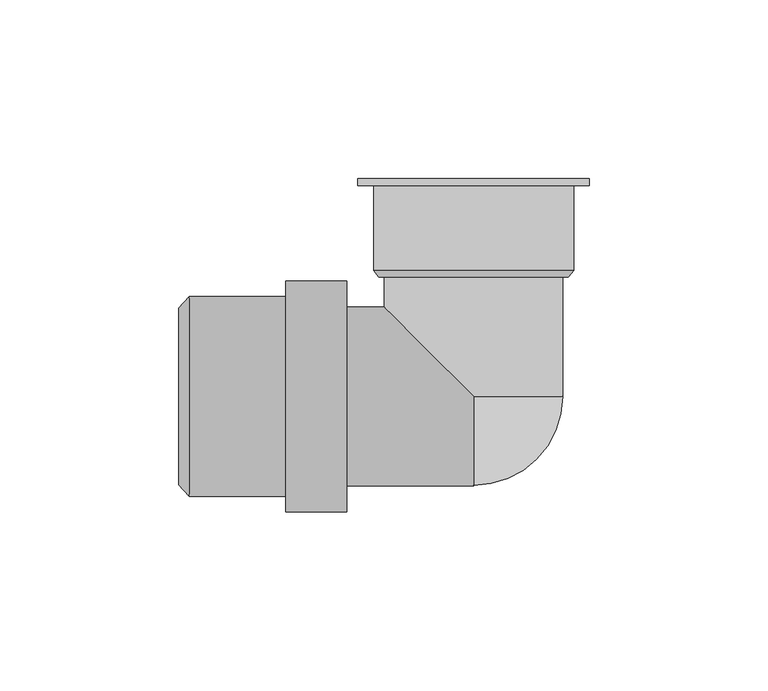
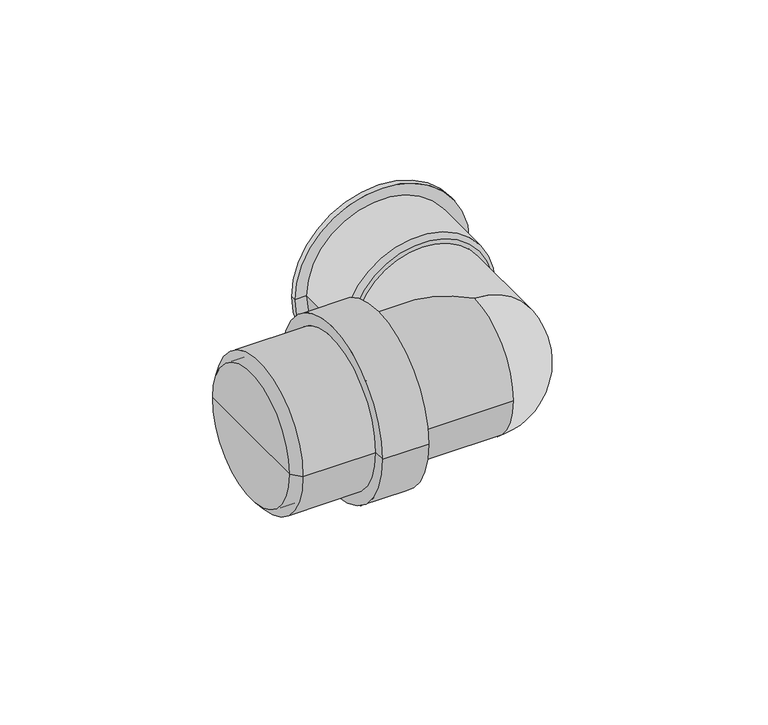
"""IFC4 building model written with IfcOpenShell, lengths in millimetres: pipe fitting geometry, PIF_AS+_Siphon_Bend_Wavin : socket end - Diameters 50-DN30/50-DN40."""

from ifc_helpers import new_model, si_unit, point, frame, origin, place, context, project, spatial, polyline, circle_curve, ellipse_curve, trimmed, source, transform, mapped, element, save
from ifc_brep_helpers import plane_surface, cylinder_surface, revolved_surface, advanced_brep


def pipe_fitting_2378b430(model_context):
    return source(origin(), model_context, "Body", "AdvancedBrep", [
        advanced_brep(
        [(-82.5, -24.75, 0.0), (-82.5, 24.75, 0.0), (-79.5, 28.0, 0.0), (-79.5, -28.0, 0.0), (-82.5, 0.0, 0.0), (-79.5, -24.75, 0.0), (-79.5, 24.75, 0.0), (-79.5, 0.0, 0.0), (-35.5, -24.75, 0.0), (-35.5, 24.75, 0.0), (-35.5, -32.35, 0.0), (-35.5, 32.35, 0.0), (-52.5, -32.35, 0.0), (-52.5, 32.35, 0.0), (-52.5, -28.0, 0.0), (-52.5, 28.0, 0.0)],
        [
            (0, 1, circle_curve(frame((-82.5, 0.0, 0.0), z_axis=(1.0, 0.0, 0.0), x_axis=(0.0, 1.0, 0.0)), 24.75)),
            (1, 2),
            (2, 3, circle_curve(frame((-79.5, 0.0, 0.0), z_axis=(-1.0, 0.0, 0.0), x_axis=(0.0, 1.0, 0.0)), 28.0)),
            (3, 0),
            (1, 0, circle_curve(frame((-82.5, 0.0, 0.0), z_axis=(1.0, 0.0, 0.0), x_axis=(0.0, 1.0, 0.0)), 24.75)),
            (3, 2, circle_curve(frame((-79.5, 0.0, 0.0), z_axis=(-1.0, 0.0, 0.0), x_axis=(0.0, 1.0, 0.0)), 28.0)),
            (4, 1),
            (0, 4),
            (5, 6, circle_curve(frame((-79.5, 0.0, 0.0), z_axis=(1.0, 0.0, 0.0), x_axis=(0.0, 1.0, 0.0)), 24.75)),
            (6, 7),
            (7, 5),
            (6, 5, circle_curve(frame((-79.5, 0.0, 0.0), z_axis=(1.0, 0.0, 0.0), x_axis=(0.0, 1.0, 0.0)), 24.75)),
            (8, 9, circle_curve(frame((-35.5, 0.0, 0.0), z_axis=(1.0, 0.0, 0.0), x_axis=(0.0, 1.0, 0.0)), 24.75)),
            (9, 6),
            (5, 8),
            (9, 8, circle_curve(frame((-35.5, 0.0, 0.0), z_axis=(1.0, 0.0, 0.0), x_axis=(0.0, 1.0, 0.0)), 24.75)),
            (10, 11, circle_curve(frame((-35.5, 0.0, 0.0), z_axis=(1.0, 0.0, 0.0), x_axis=(0.0, 1.0, 0.0)), 32.35)),
            (11, 9),
            (8, 10),
            (11, 10, circle_curve(frame((-35.5, 0.0, 0.0), z_axis=(1.0, 0.0, 0.0), x_axis=(0.0, 1.0, 0.0)), 32.35)),
            (12, 13, circle_curve(frame((-52.5, 0.0, 0.0), z_axis=(1.0, 0.0, 0.0), x_axis=(0.0, 1.0, 0.0)), 32.35)),
            (13, 11),
            (10, 12),
            (13, 12, circle_curve(frame((-52.5, 0.0, 0.0), z_axis=(1.0, 0.0, 0.0), x_axis=(0.0, 1.0, 0.0)), 32.35)),
            (14, 15, circle_curve(frame((-52.5, 0.0, 0.0), z_axis=(1.0, 0.0, 0.0), x_axis=(0.0, 1.0, 0.0)), 28.0)),
            (15, 13),
            (12, 14),
            (15, 14, circle_curve(frame((-52.5, 0.0, 0.0), z_axis=(1.0, 0.0, 0.0), x_axis=(0.0, 1.0, 0.0)), 28.0)),
            (2, 15),
            (14, 3),
        ],
        [
            revolved_surface(polyline([(-79.5, 28.0, 0.0), (-82.5, 24.75, 0.0)]), (1867.6265064, 0.0, 0.0), (-1.0, 0.0, 0.0)),
            plane_surface(frame((-82.5, 0.0, 0.0), z_axis=(-1.0, 0.0, 0.0), x_axis=(0.0, 1.0, 0.0))),
            plane_surface(frame((-79.5, 0.0, 0.0), z_axis=(1.0, 0.0, 0.0), x_axis=(0.0, 1.0, 0.0))),
            revolved_surface(polyline([(-79.5, 24.75, 0.0), (-35.5, 24.75, 0.0)]), (1867.6265064, 0.0, 0.0), (-1.0, 0.0, 0.0)),
            plane_surface(frame((-35.5, 0.0, 0.0), z_axis=(1.0, 0.0, 0.0), x_axis=(0.0, 1.0, 0.0))),
            cylinder_surface(frame((1867.6265064, 0.0, 0.0), z_axis=(-1.0, 0.0, 0.0), x_axis=(0.0, 1.0, 0.0)), 32.35),
            plane_surface(frame((-52.5, 0.0, 0.0), z_axis=(-1.0, 0.0, 0.0), x_axis=(0.0, 1.0, 0.0))),
            cylinder_surface(frame((1867.6265064, 0.0, 0.0), z_axis=(-1.0, 0.0, 0.0), x_axis=(0.0, 1.0, 0.0)), 28.0),
        ],
        [
            (0, [[1, 2, 3, 4]]),
            (0, [[5, -4, 6, -2]]),
            (1, [[7, -1, 8]]),
            (1, [[-8, -5, -7]]),
            (2, [[9, 10, 11]]),
            (2, [[12, -11, -10]]),
            (3, [[13, 14, -9, 15]]),
            (3, [[16, -15, -12, -14]]),
            (4, [[17, 18, -13, 19]]),
            (4, [[20, -19, -16, -18]]),
            (5, [[21, 22, -17, 23]]),
            (5, [[24, -23, -20, -22]]),
            (6, [[25, 26, -21, 27]]),
            (6, [[28, -27, -24, -26]]),
            (7, [[-3, 29, -25, 30]]),
            (7, [[-6, -30, -28, -29]]),
        ],
    ),
        advanced_brep(
        [(26.5, 33.4, 0.0), (-26.5, 33.4, 0.0), (-28.0, 35.2, 0.0), (28.0, 35.2, 0.0), (0.0, 33.4, 0.0), (26.5, 35.2, 0.0), (-26.5, 35.2, 0.0), (0.0, 35.2, 0.0), (26.5, 61.0, 0.0), (-26.5, 61.0, 0.0), (32.35, 61.0, 0.0), (-32.35, 61.0, 0.0), (32.35, 59.0, 0.0), (-32.35, 59.0, 0.0), (28.0, 59.0, 0.0), (-28.0, 59.0, 0.0)],
        [
            (0, 1, circle_curve(frame((0.0, 33.4, 0.0), z_axis=(0.0, 1.0, 0.0), x_axis=(-0.9999999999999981, 0.0, 0.0)), 26.5)),
            (1, 2),
            (2, 3, circle_curve(frame((0.0, 35.2, 0.0), z_axis=(0.0, -1.0, 0.0), x_axis=(-0.9999999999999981, 0.0, 0.0)), 28.0)),
            (3, 0),
            (1, 0, circle_curve(frame((0.0, 33.4, 0.0), z_axis=(0.0, 1.0, 0.0), x_axis=(-0.9999999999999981, 0.0, 0.0)), 26.5)),
            (3, 2, circle_curve(frame((0.0, 35.2, 0.0), z_axis=(0.0, -1.0, 0.0), x_axis=(-0.9999999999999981, 0.0, 0.0)), 28.0)),
            (4, 1),
            (0, 4),
            (5, 6, circle_curve(frame((0.0, 35.2, 0.0), z_axis=(0.0, 1.0, 0.0), x_axis=(-0.9999999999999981, 0.0, 0.0)), 26.5)),
            (6, 7),
            (7, 5),
            (6, 5, circle_curve(frame((0.0, 35.2, 0.0), z_axis=(0.0, 1.0, 0.0), x_axis=(-0.9999999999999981, 0.0, 0.0)), 26.5)),
            (8, 9, circle_curve(frame((0.0, 61.0, 0.0), z_axis=(0.0, 1.0, 0.0), x_axis=(-0.9999999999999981, 0.0, 0.0)), 26.5)),
            (9, 6),
            (5, 8),
            (9, 8, circle_curve(frame((0.0, 61.0, 0.0), z_axis=(0.0, 1.0, 0.0), x_axis=(-0.9999999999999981, 0.0, 0.0)), 26.5)),
            (10, 11, circle_curve(frame((0.0, 61.0, 0.0), z_axis=(0.0, 1.0, 0.0), x_axis=(-0.9999999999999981, 0.0, 0.0)), 32.35)),
            (11, 9),
            (8, 10),
            (11, 10, circle_curve(frame((0.0, 61.0, 0.0), z_axis=(0.0, 1.0, 0.0), x_axis=(-0.9999999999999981, 0.0, 0.0)), 32.35)),
            (12, 13, circle_curve(frame((0.0, 59.0, 0.0), z_axis=(0.0, 1.0, 0.0), x_axis=(-0.9999999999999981, 0.0, 0.0)), 32.35)),
            (13, 11),
            (10, 12),
            (13, 12, circle_curve(frame((0.0, 59.0, 0.0), z_axis=(0.0, 1.0, 0.0), x_axis=(-0.9999999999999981, 0.0, 0.0)), 32.35)),
            (14, 15, circle_curve(frame((0.0, 59.0, 0.0), z_axis=(0.0, 1.0, 0.0), x_axis=(-0.9999999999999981, 0.0, 0.0)), 28.0)),
            (15, 13),
            (12, 14),
            (15, 14, circle_curve(frame((0.0, 59.0, 0.0), z_axis=(0.0, 1.0, 0.0), x_axis=(-0.9999999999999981, 0.0, 0.0)), 28.0)),
            (2, 15),
            (14, 3),
        ],
        [
            revolved_surface(polyline([(-28.0, 35.2, 0.0), (-26.5, 33.4, 0.0)]), (0.0, 1964.1265064, 0.0), (0.0, -0.9999999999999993, 0.0)),
            plane_surface(frame((0.0, 33.4, 0.0), z_axis=(0.0, -1.0, 0.0), x_axis=(-1.0, 0.0, 0.0))),
            plane_surface(frame((0.0, 35.2, 0.0), z_axis=(0.0, 1.0, 0.0), x_axis=(-1.0, 0.0, 0.0))),
            revolved_surface(polyline([(-26.49999999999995, 35.200000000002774, 0.0), (-26.49999999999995, 61.00000000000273, 0.0)]), (0.0, 1964.1265064, 0.0), (0.0, -0.9999999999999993, 0.0)),
            plane_surface(frame((0.0, 61.0, 0.0), z_axis=(0.0, 1.0, 0.0), x_axis=(-1.0, 0.0, 0.0))),
            cylinder_surface(frame((0.0, 1964.1265064, 0.0), z_axis=(0.0, -0.9999999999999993, 0.0), x_axis=(-0.9999999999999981, 0.0, 0.0)), 32.35),
            plane_surface(frame((0.0, 59.0, 0.0), z_axis=(0.0, -1.0, 0.0), x_axis=(-1.0, 0.0, 0.0))),
            cylinder_surface(frame((0.0, 1964.1265064, 0.0), z_axis=(0.0, -0.9999999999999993, 0.0), x_axis=(-0.9999999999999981, 0.0, 0.0)), 28.0),
        ],
        [
            (0, [[1, 2, 3, 4]]),
            (0, [[5, -4, 6, -2]]),
            (1, [[7, -1, 8]]),
            (1, [[-8, -5, -7]]),
            (2, [[9, 10, 11]]),
            (2, [[12, -11, -10]]),
            (3, [[13, 14, -9, 15]]),
            (3, [[16, -15, -12, -14]]),
            (4, [[17, 18, -13, 19]]),
            (4, [[20, -19, -16, -18]]),
            (5, [[21, 22, -17, 23]]),
            (5, [[24, -23, -20, -22]]),
            (6, [[25, 26, -21, 27]]),
            (6, [[28, -27, -24, -26]]),
            (7, [[-3, 29, -25, 30]]),
            (7, [[-6, -30, -28, -29]]),
        ],
    ),
        advanced_brep(
        [(-79.5, -25.0, 0.0), (-79.5, 25.0, 0.0), (0.0, -25.0, 0.0), (0.0, 0.0, 25.0), (-25.0, 25.0, 0.0), (0.0, 0.0, -25.0), (25.0, 35.2, 0.0), (-25.0, 35.2, 0.0), (25.0, 0.0, 0.0)],
        [
            (0, 1, circle_curve(frame((-79.5, 0.0, 0.0), z_axis=(-1.0, 0.0, 0.0), x_axis=(0.0, 1.0, 0.0)), 25.0)),
            (1, 0, circle_curve(frame((-79.5, 0.0, 0.0), z_axis=(-1.0, 0.0, 0.0), x_axis=(0.0, 1.0, 0.0)), 25.0)),
            (0, 2),
            (2, 3, circle_curve(frame((0.0, 0.0, 0.0), z_axis=(-1.0, 0.0, 0.0), x_axis=(0.0, 1.0, 0.0)), 25.0)),
            (3, 4, ellipse_curve(frame((0.0, 0.0, 0.0), z_axis=(-0.7071067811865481, -0.7071067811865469, 0.0), x_axis=(-0.7071067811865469, 0.7071067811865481, 0.0)), 35.3553391, 25.0)),
            (4, 1),
            (4, 5, ellipse_curve(frame((0.0, 0.0, 0.0), z_axis=(-0.7071067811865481, -0.7071067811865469, 0.0), x_axis=(-0.7071067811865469, 0.7071067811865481, 0.0)), 35.3553391, 25.0)),
            (5, 2, circle_curve(frame((0.0, 0.0, 0.0), z_axis=(-1.0, 0.0, 0.0), x_axis=(0.0, 1.0, 0.0)), 25.0)),
            (6, 7, circle_curve(frame((0.0, 35.2, 0.0), z_axis=(0.0, 1.0, 0.0), x_axis=(-1.0, 0.0, 0.0)), 25.0)),
            (7, 6, circle_curve(frame((0.0, 35.2, 0.0), z_axis=(0.0, 1.0, 0.0), x_axis=(-1.0, 0.0, 0.0)), 25.0)),
            (7, 4),
            (3, 8, circle_curve(frame((0.0, 0.0, 0.0), z_axis=(0.0, 1.0, 0.0), x_axis=(-1.0, 0.0, 0.0)), 25.0)),
            (8, 6),
            (8, 5, circle_curve(frame((0.0, 0.0, 0.0), z_axis=(0.0, 1.0, 0.0), x_axis=(-1.0, 0.0, 0.0)), 25.0)),
        ],
        [
            plane_surface(frame((-79.5, 0.0, 0.0), z_axis=(-1.0, 0.0, 0.0), x_axis=(0.0, 0.0, 1.0))),
            cylinder_surface(frame((-79.5, 0.0, 0.0), z_axis=(-1.0, 0.0, 0.0), x_axis=(0.0, 1.0, 0.0)), 25.0),
            plane_surface(frame((0.0, 35.2, 0.0), z_axis=(0.0, 1.0, 0.0), x_axis=(0.0, 0.0, 1.0))),
            cylinder_surface(frame((0.0, 0.0, 0.0), z_axis=(0.0, -1.0, 0.0), x_axis=(-1.0, 0.0, 0.0)), 25.0),
            revolved_surface(trimmed(ellipse_curve(frame((0.0, 0.0, 0.0), z_axis=(1.0, 0.0, 0.0), x_axis=(0.0, 1.0, 0.0)), 25.0, 25.0), [point((0.0, 0.0, 25.0))], [point((0.0, 0.0, -25.0))], True, "CARTESIAN"), (0.0, 0.0, 2741.4742198), (0.0, 0.0, -1.0)),
        ],
        [
            (0, [[1, 2]]),
            (1, [[-1, 3, 4, 5, 6]]),
            (1, [[-2, -6, 7, 8, -3]]),
            (2, [[9, 10]]),
            (3, [[-10, 11, -5, 12, 13]]),
            (3, [[-9, -13, 14, -7, -11]]),
            (4, [[-4, -8, -14, -12]]),
        ],
    ),
    ])


if __name__ == "__main__":
    model = new_model("IFC4")
    model_context = context("Model", 3, world=origin())
    ifc_project = project(units=[si_unit("LENGTHUNIT", "METRE", prefix="MILLI")], contexts=[model_context])
    site = spatial("IfcSite", under=ifc_project)
    building = spatial("IfcBuilding", under=site)
    placement = place(None, origin())
    pipe_fitting_shape = pipe_fitting_2378b430(model_context)
    element("IfcPipeFitting", 1, ObjectType="PIF_AS+_Siphon_Bend_Wavin : socket end - Diameters 50-DN30/50-DN40", at=placement, inside=building, context=model_context, shape_type="MappedRepresentation", body=[
        mapped(pipe_fitting_shape, transform((0.0, 0.0, 0.0), x_axis=(1.0, 0.0, 0.0), y_axis=(0.0, 1.0, 0.0), z_axis=(0.0, 0.0, 1.0))),
    ])
    save(model, "model.ifc")
